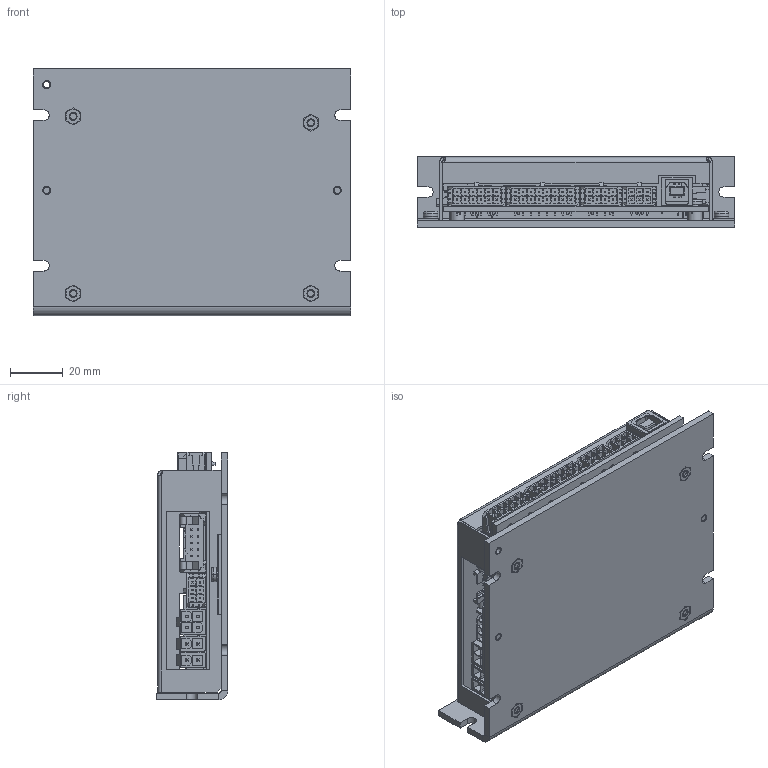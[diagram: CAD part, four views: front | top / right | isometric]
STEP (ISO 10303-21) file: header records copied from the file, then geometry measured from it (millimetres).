
FILE_DESCRIPTION((''),'2;1');
FILE_NAME('347717_EPOS2_50_5_ASM','2012-10-31T',('johannes'),(''),'PRO/ENGINEER BY PARAMETRIC TECHNOLOGY CORPORATION, 2010330','PRO/ENGINEER BY PARAMETRIC TECHNOLOGY CORPORATION, 2010330','');
FILE_SCHEMA(('CONFIG_CONTROL_DESIGN'));
Products named in the file (27): BOARD_EPOS2_50_5; MOLEX_484403; MOLEX_430450800; MOLEX_790847; MOLEX_4302504000; MOLEX_809744; MOLEX_818472; SWP3DPS-0744770222_; HOUSING_BASEPLATE_EPOS2_50_5; PEM-SO-3_5M3X6_A2A; M3X8; SW3DPS-DIP_10X; MOLEX_454347; USB_67068_8011; HOUSING_COVER_EPOS2_50_5; M3X4; TYCO_V23535; SILKSCREEN_BASE_73X93; SILKSCREEN_347717_TEXT1; SILKSCREEN_LOGO_347717; SILKSCREEN_MAXON_LOGO_27X3_2; SILKSCREEN_347717_ASM; LED_BASE; LED_GREEN; LED_RED; STATUS_INDICATOR_LED_ASM; 347717_EPOS2_50_5_ASM
Assembly tree (39 placements, depth 3):
  347717_EPOS2_50_5_ASM
    BOARD_EPOS2_50_5
    MOLEX_484403
    MOLEX_430450800
    MOLEX_790847  x2
    MOLEX_4302504000  x2
    MOLEX_809744
    MOLEX_818472  x2
    SWP3DPS-0744770222_  x3
    HOUSING_BASEPLATE_EPOS2_50_5
    PEM-SO-3_5M3X6_A2A  x4
    M3X8  x4
    SW3DPS-DIP_10X
    MOLEX_454347
    USB_67068_8011
    HOUSING_COVER_EPOS2_50_5
    M3X4  x2
    TYCO_V23535
    SILKSCREEN_347717_ASM
      SILKSCREEN_BASE_73X93
      SILKSCREEN_347717_TEXT1
      SILKSCREEN_LOGO_347717
      SILKSCREEN_MAXON_LOGO_27X3_2
    STATUS_INDICATOR_LED_ASM
      LED_BASE  x2
      LED_GREEN
      LED_RED
Bounding box: 120 x 27 x 93.8 mm (x, y, z)
Volume: 80230.3 mm3; surface area: 123354.7 mm2
Topology: 109 solids, 122 shells, 11193 faces, 30929 edges, 20271 vertices
Faces by surface type: plane 10335, cylinder 686, torus 84, sphere 44, cone 40, bspline 4
Entity records: 321400 total; most frequent: CARTESIAN_POINT 57756, ORIENTED_EDGE 56692, DIRECTION 49772, EDGE_CURVE 28358, VECTOR 27274, LINE 27274, VERTEX_POINT 18651, AXIS2_PLACEMENT_3D 11249
